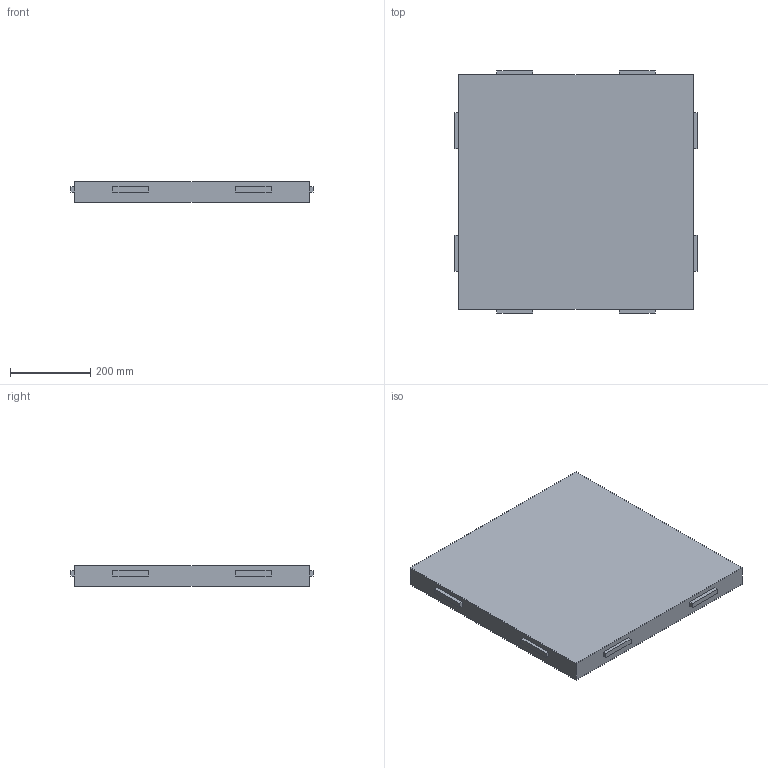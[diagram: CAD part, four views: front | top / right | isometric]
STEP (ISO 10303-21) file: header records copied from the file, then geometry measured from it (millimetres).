
FILE_DESCRIPTION(/* description */ (''),/* implementation_level */ '2;1');
FILE_NAME(/* name */ 'PET KEYS_2x2_1',/* time_stamp */ '2024-10-14T11:04:29-05:00',/* author */ (''),/* organization */ (''),/* preprocessor_version */ 'ST-DEVELOPER v19.2',/* originating_system */ 'Rhino 8.4',/* authorisation */ '');
FILE_SCHEMA (('CONFIG_CONTROL_DESIGN'));
Length unit declared in the file: inch
Products named in the file (1): Document
Bounding box: 603.25 x 603.25 x 50.8 mm (x, y, z)
Volume: 17423545.8 mm3; surface area: 816772.6 mm2
Topology: 1 solids, 1 shells, 46 faces, 108 edges, 72 vertices
Faces by surface type: plane 46
Entity records: 1226 total; most frequent: CARTESIAN_POINT 336, ORIENTED_EDGE 216, EDGE_CURVE 108, B_SPLINE_CURVE_WITH_KNOTS 108, VERTEX_POINT 72, EDGE_LOOP 54, DIRECTION 50, AXIS2_PLACEMENT_3D 48
